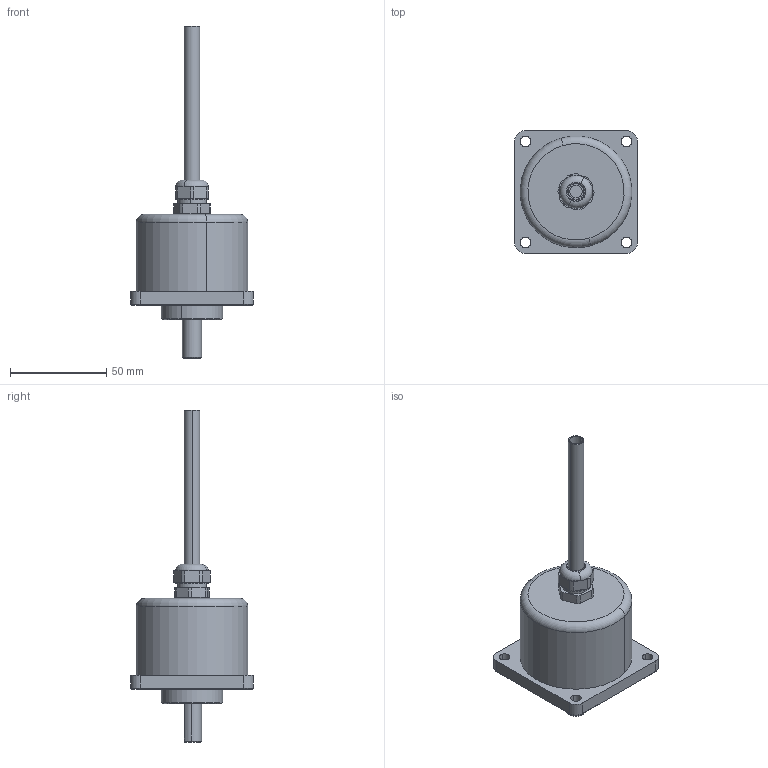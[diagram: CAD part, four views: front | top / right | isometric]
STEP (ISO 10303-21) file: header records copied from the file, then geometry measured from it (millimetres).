
FILE_DESCRIPTION (( 'STEP AP214' ), '1' );
FILE_NAME ('8.5803.M2X1.XXXX.STEP', '2010-12-17T13:40:43', ( 'admin' ), ( 'Fritz Kübler GmbH' ), 'SwSTEP 2.0', 'SolidWorks 2009', '' );
FILE_SCHEMA (( 'AUTOMOTIVE_DESIGN' ));
Length unit declared in the file: millimetre
Products named in the file (1): 8.5803.M2X1.XXXX
Bounding box: 63.5 x 63.5 x 172.35 mm (x, y, z)
Surface area: 25145.1 mm2 (no closed solid volume)
Topology: 0 solids, 10 shells, 109 faces, 274 edges, 175 vertices
Faces by surface type: cylinder 45, plane 38, torus 14, cone 12
Entity records: 4507 total; most frequent: DIRECTION 642, CARTESIAN_POINT 565, ORIENTED_EDGE 490, EDGE_CURVE 274, AXIS2_PLACEMENT_3D 260, VERTEX_POINT 175, CIRCLE 150, EDGE_LOOP 126
